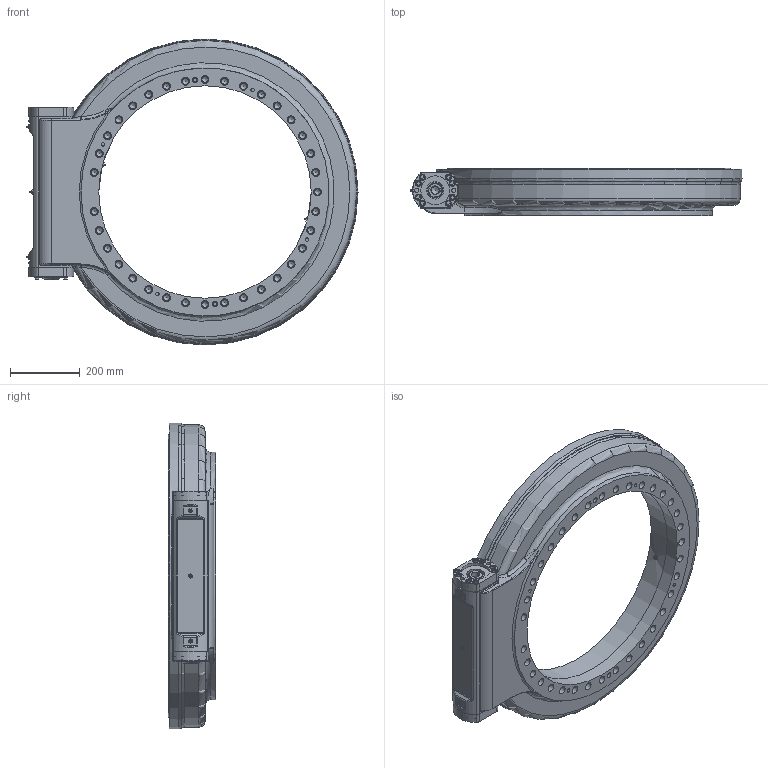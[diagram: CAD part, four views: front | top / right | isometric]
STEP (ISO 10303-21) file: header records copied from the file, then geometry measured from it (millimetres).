
FILE_DESCRIPTION (( 'STEP AP214' ), '1' );
FILE_NAME ('FWA28-137M-25H-R-REV.A.STEP', '2024-01-05T09:04:36', ( '' ), ( '' ), 'SwSTEP 2.0', 'SolidWorks 2018', '' );
FILE_SCHEMA (( 'AUTOMOTIVE_DESIGN' ));
Length unit declared in the file: millimetre
Products named in the file (1): FWA28-137M-25H-R-REV.A
Bounding box: 950.46 x 135 x 876 mm (x, y, z)
Volume: 28161302.1 mm3; surface area: 3600095.1 mm2
Topology: 21 solids, 21 shells, 1233 faces, 2636 edges, 1680 vertices
Faces by surface type: plane 506, cylinder 433, cone 148, torus 77, bspline 58, sphere 11
Full cylindrical faces by diameter (mm): 5 x2, 6 x2, 7 x9, 8.5 x16, 9 x2, 10 x35, 10.084 x3, 11 x16, 12 x6, 13 x4, 15 x2, 16 x16, 17.5 x87, 18 x4, 19 x2, 20 x75, 22 x36, 25.4 x1, 33.5 x1, 40 x5, 40.756 x1, 41.837 x1, 41.908 x1, 42.231 x1, 47 x1, 50 x3, 51.124 x1, 55 x3, 57 x1, 67 x1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
Entity records: 46530 total; most frequent: CARTESIAN_POINT 8949, DIRECTION 5141, ORIENTED_EDGE 3714, AXIS2_PLACEMENT_3D 2240, EDGE_LOOP 2181, EDGE_CURVE 1857, FACE_OUTER_BOUND 1669, VERTEX_POINT 1492
